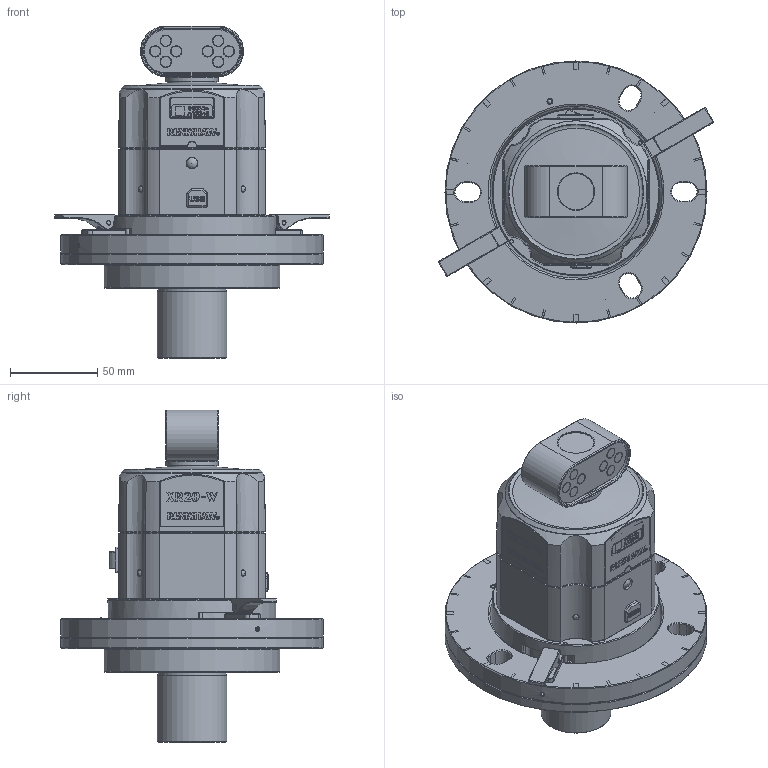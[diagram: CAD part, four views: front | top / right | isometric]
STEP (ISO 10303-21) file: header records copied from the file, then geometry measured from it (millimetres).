
FILE_DESCRIPTION(/* description */ (''),/* implementation_level */ '2;1');
FILE_NAME(/* name */ 'LA_9920_0400_A.stp',/* time_stamp */ '2012-05-11T08:40:10+01:00',/* author */ (''),/* organization */ (''),/* preprocessor_version */ 'ST-DEVELOPER v11',/* originating_system */ 'SIEMENS PLM Software NX 7.5',/* authorisation */ '');
FILE_SCHEMA (('AP203_CONFIGURATION_CONTROLLED_3D_DESIGN_OF_MECHANICAL_PARTS_AND_ASSEMBLIES_MIM_LF'));
Length unit declared in the file: millimetre
Products named in the file (1): js13E2EEukob
Bounding box: 157.35 x 150 x 190 mm (x, y, z)
Volume: 895036.4 mm3; surface area: 172330.5 mm2
Topology: 4 solids, 18 shells, 2521 faces, 6576 edges, 4455 vertices
Faces by surface type: plane 1337, cylinder 531, cone 288, extrusion 206, torus 116, sphere 31, bspline 12
Full cylindrical faces by diameter (mm): 0.331 x1, 0.56 x1, 0.57 x4, 1.012 x1, 2 x1, 2.02 x4, 2.4 x3, 2.5 x4, 2.54 x2, 2.545 x8, 2.6 x2, 2.874 x2, 2.925 x2, 3 x6, 3.013 x1, 3.015 x2, 3.14 x4, 3.15 x2, 3.2 x2, 3.4 x4, 3.5 x6, 3.6 x4, 4.3 x12, 4.826 x2, 5 x7, 5.5 x7, 5.7 x4, 6 x12, 6.5 x8, 6.8 x1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
Entity records: 98925 total; most frequent: CARTESIAN_POINT 23044, ORIENTED_EDGE 12092, DIRECTION 10825, EDGE_CURVE 6046, VERTEX_POINT 4317, AXIS2_PLACEMENT_3D 3903, EDGE_LOOP 3334, VECTOR 3019
